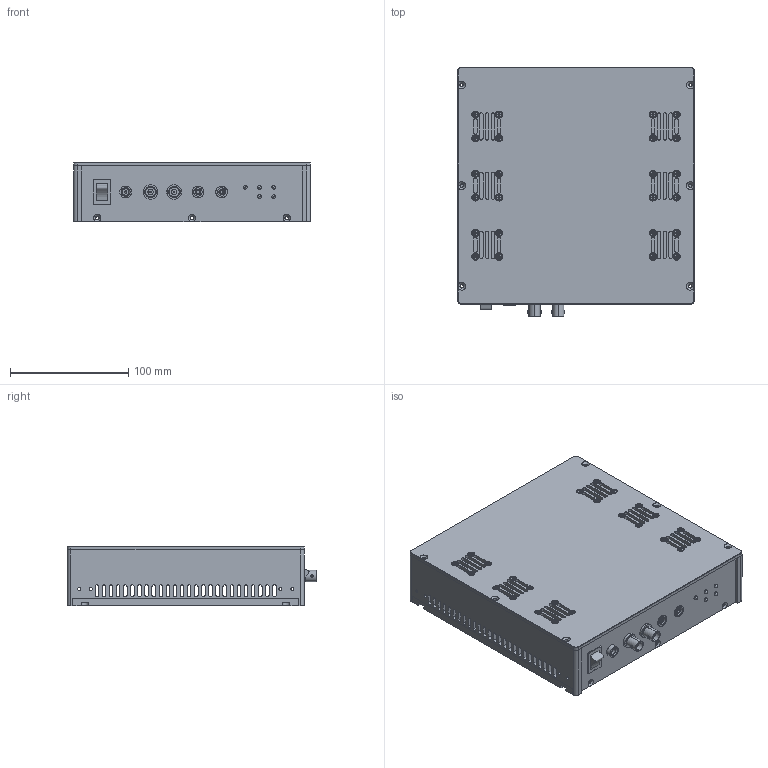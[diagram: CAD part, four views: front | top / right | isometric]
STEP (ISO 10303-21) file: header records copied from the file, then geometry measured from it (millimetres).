
FILE_DESCRIPTION (( 'STEP AP203' ), '1' );
FILE_NAME ('E80.A2K-H.STEP', '2025-07-15T05:12:40', ( 'China' ), ( 'Home' ), 'SwSTEP 2.0', 'SolidWorks 2016', '' );
FILE_SCHEMA (( 'CONFIG_CONTROL_DESIGN' ));
Length unit declared in the file: millimetre
Products named in the file (1): E80.A2K-H
Bounding box: 200 x 210.7 x 50 mm (x, y, z)
Surface area: 178996.8 mm2 (no closed solid volume)
Topology: 0 solids, 49 shells, 973 faces, 3191 edges, 2199 vertices
Faces by surface type: plane 463, cylinder 415, cone 82, sphere 12, bspline 1
Entity records: 35299 total; most frequent: CARTESIAN_POINT 6587, DIRECTION 6241, ORIENTED_EDGE 5275, EDGE_CURVE 3177, VERTEX_POINT 2197, AXIS2_PLACEMENT_3D 2119, LINE 2003, VECTOR 2003
